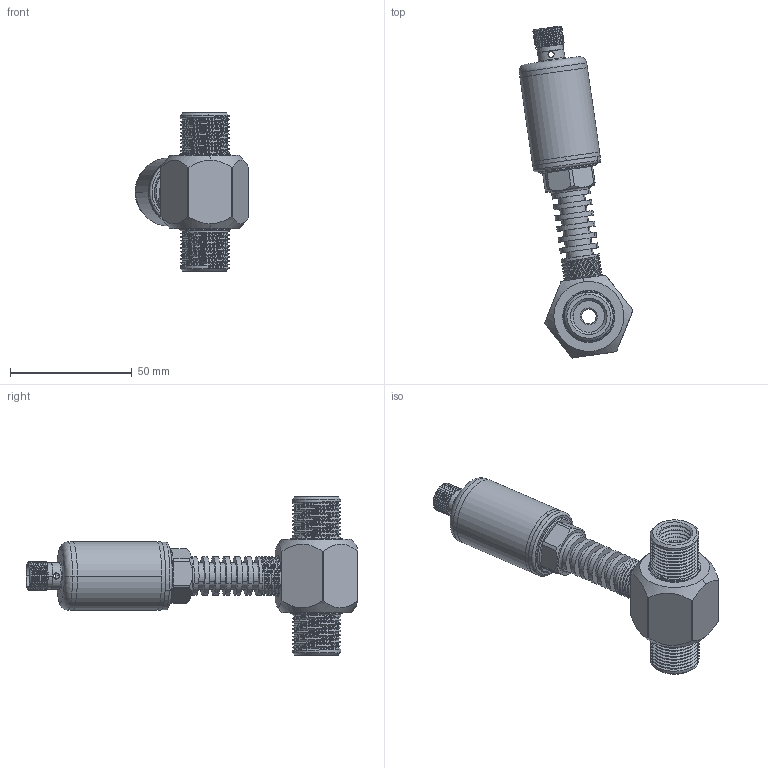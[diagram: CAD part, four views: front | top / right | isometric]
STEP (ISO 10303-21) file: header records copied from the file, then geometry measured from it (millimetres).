
FILE_DESCRIPTION (( 'STEP AP214' ), '1' );
FILE_NAME ('BFW1M06-J.STEP', '2026-07-04T11:12:48', ( '' ), ( '' ), 'SwSTEP 2.0', 'SolidWorks 2023', '' );
FILE_SCHEMA (( 'AUTOMOTIVE_DESIGN' ));
Length unit declared in the file: millimetre
Products named in the file (7): 垫片; 壳体; 连接管; 主体; BFW1M06-J; 压力变送器; 高温探头
Assembly tree (6 placements, depth 3):
  BFW1M06-J
    压力变送器
      壳体
      垫片
      连接管
    主体
    高温探头
Bounding box: 46.71 x 136.33 x 65 mm (x, y, z)
Volume: 41529.8 mm3; surface area: 30406.4 mm2
Topology: 5 solids, 5 shells, 391 faces, 974 edges, 623 vertices
Faces by surface type: cylinder 235, plane 68, cone 54, bspline 22, torus 12
Entity records: 22326 total; most frequent: CARTESIAN_POINT 13644, ORIENTED_EDGE 1948, DIRECTION 1634, EDGE_CURVE 974, AXIS2_PLACEMENT_3D 655, VERTEX_POINT 623, EDGE_LOOP 439, FACE_OUTER_BOUND 391
